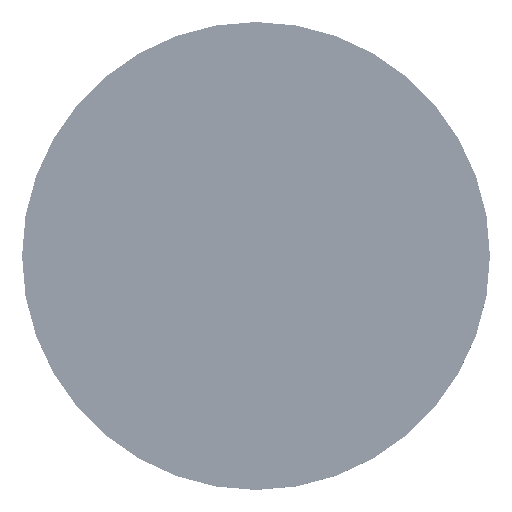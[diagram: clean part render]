
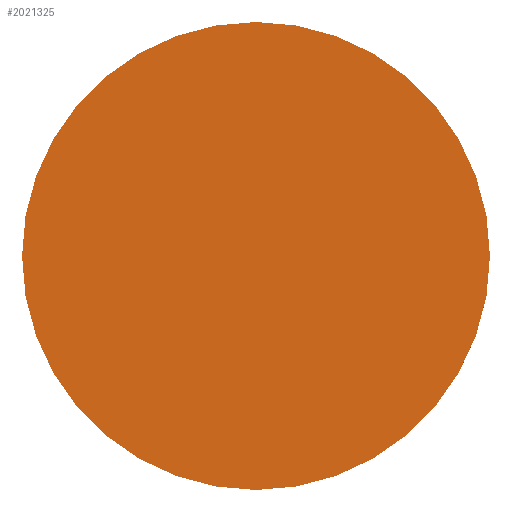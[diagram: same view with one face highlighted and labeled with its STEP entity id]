
A CAD part, top view. The second image highlights one B-rep face of the part: STEP entity #2021325.
In plain terms, the highlighted planar face has unit normal (0, 0, 1).
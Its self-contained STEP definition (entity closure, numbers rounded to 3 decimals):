
#2021207 = VERTEX_POINT('',#2021208);
#2021208 = CARTESIAN_POINT('',(20.,0.,43.646));
#2021217 = CYLINDRICAL_SURFACE('',#2021218,20.);
#2021218 = AXIS2_PLACEMENT_3D('',#2021219,#2021220,#2021221);
#2021219 = CARTESIAN_POINT('',(0.,0.,42.62));
#2021220 = DIRECTION('',(-0.,-0.,-1.));
#2021221 = DIRECTION('',(1.,0.,0.));
#2021236 = EDGE_CURVE('',#2021207,#2021207,#2021237,.T.);
#2021237 = SURFACE_CURVE('',#2021238,(#2021243,#2021250),.PCURVE_S1.);
#2021238 = CIRCLE('',#2021239,20.);
#2021239 = AXIS2_PLACEMENT_3D('',#2021240,#2021241,#2021242);
#2021240 = CARTESIAN_POINT('',(0.,0.,43.646));
#2021241 = DIRECTION('',(0.,0.,1.));
#2021242 = DIRECTION('',(1.,0.,-0.));
#2021243 = PCURVE('',#2021217,#2021244);
#2021244 = DEFINITIONAL_REPRESENTATION('',(#2021245),#2021249);
#2021245 = LINE('',#2021246,#2021247);
#2021246 = CARTESIAN_POINT('',(6.283,-1.026));
#2021247 = VECTOR('',#2021248,1.);
#2021248 = DIRECTION('',(-1.,0.));
#2021249 = ( GEOMETRIC_REPRESENTATION_CONTEXT(2) 
PARAMETRIC_REPRESENTATION_CONTEXT() REPRESENTATION_CONTEXT('2D SPACE',''
  ) );
#2021250 = PCURVE('',#2021251,#2021256);
#2021251 = PLANE('',#2021252);
#2021252 = AXIS2_PLACEMENT_3D('',#2021253,#2021254,#2021255);
#2021253 = CARTESIAN_POINT('',(0.,0.,
    43.646));
#2021254 = DIRECTION('',(0.,0.,1.));
#2021255 = DIRECTION('',(1.,0.,-0.));
#2021256 = DEFINITIONAL_REPRESENTATION('',(#2021257),#2021261);
#2021257 = CIRCLE('',#2021258,20.);
#2021258 = AXIS2_PLACEMENT_2D('',#2021259,#2021260);
#2021259 = CARTESIAN_POINT('',(0.,0.));
#2021260 = DIRECTION('',(1.,0.));
#2021261 = ( GEOMETRIC_REPRESENTATION_CONTEXT(2) 
PARAMETRIC_REPRESENTATION_CONTEXT() REPRESENTATION_CONTEXT('2D SPACE',''
  ) );
#2021325 = ADVANCED_FACE('',(#2021326),#2021251,.T.);
#2021326 = FACE_BOUND('',#2021327,.T.);
#2021327 = EDGE_LOOP('',(#2021328));
#2021328 = ORIENTED_EDGE('',*,*,#2021236,.T.);
